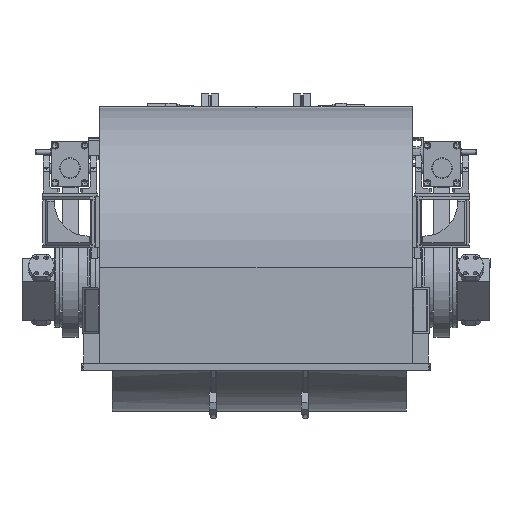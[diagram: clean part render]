
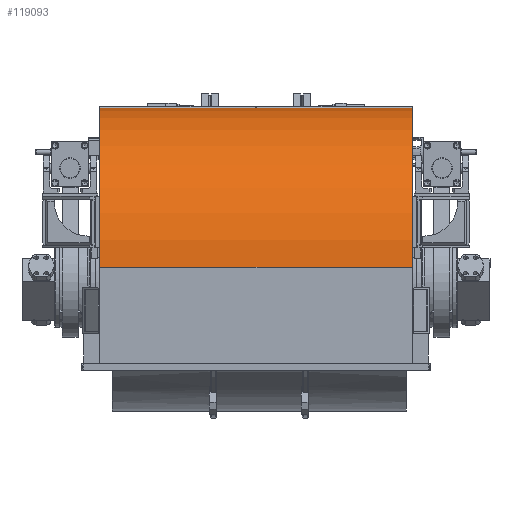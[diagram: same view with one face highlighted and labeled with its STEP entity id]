
A CAD part, front view. The second image highlights one B-rep face of the part: STEP entity #119093.
In plain terms, the highlighted cylindrical face has radius 702 mm (diameter 1404 mm), a partial arc.
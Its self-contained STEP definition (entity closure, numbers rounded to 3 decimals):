
#6226=CYLINDRICAL_SURFACE('',#127164,702.);
#9907=FACE_OUTER_BOUND('',#16761,.T.);
#16761=EDGE_LOOP('',(#86317,#86318,#86319,#86320));
#24538=LINE('',#217859,#34014);
#24539=LINE('',#217863,#34015);
#34014=VECTOR('',#144874,10.);
#34015=VECTOR('',#144877,10.);
#42051=CIRCLE('',#127165,702.);
#42052=CIRCLE('',#127166,702.);
#49222=VERTEX_POINT('',#217857);
#49223=VERTEX_POINT('',#217858);
#49224=VERTEX_POINT('',#217860);
#49225=VERTEX_POINT('',#217862);
#62655=EDGE_CURVE('',#49222,#49223,#24538,.T.);
#62656=EDGE_CURVE('',#49222,#49224,#42051,.T.);
#62657=EDGE_CURVE('',#49225,#49224,#24539,.T.);
#62658=EDGE_CURVE('',#49223,#49225,#42052,.T.);
#86317=ORIENTED_EDGE('',*,*,#62655,.F.);
#86318=ORIENTED_EDGE('',*,*,#62656,.T.);
#86319=ORIENTED_EDGE('',*,*,#62657,.F.);
#86320=ORIENTED_EDGE('',*,*,#62658,.F.);
#119093=ADVANCED_FACE('',(#9907),#6226,.T.);
#127164=AXIS2_PLACEMENT_3D('',#217856,#144872,#144873);
#127165=AXIS2_PLACEMENT_3D('',#217861,#144875,#144876);
#127166=AXIS2_PLACEMENT_3D('',#217864,#144878,#144879);
#144872=DIRECTION('center_axis',(1.,0.,0.));
#144873=DIRECTION('ref_axis',(0.,0.184,0.983));
#144874=DIRECTION('',(1.,0.,0.));
#144875=DIRECTION('center_axis',(1.,0.,0.));
#144876=DIRECTION('ref_axis',(0.,0.184,0.983));
#144877=DIRECTION('',(-1.,0.,0.));
#144878=DIRECTION('center_axis',(1.,0.,0.));
#144879=DIRECTION('ref_axis',(0.,0.184,0.983));
#217856=CARTESIAN_POINT('Origin',(-690.,-259.5,67.5));
#217857=CARTESIAN_POINT('',(-1380.,-143.467,759.844));
#217858=CARTESIAN_POINT('',(0.,-143.467,759.844));
#217859=CARTESIAN_POINT('',(-690.,-143.467,759.844));
#217860=CARTESIAN_POINT('',(-1380.,-961.5,67.5));
#217861=CARTESIAN_POINT('Origin',(-1380.,-259.5,67.5));
#217862=CARTESIAN_POINT('',(0.,-961.5,67.5));
#217863=CARTESIAN_POINT('',(-690.,-961.5,67.5));
#217864=CARTESIAN_POINT('Origin',(0.,-259.5,67.5));
